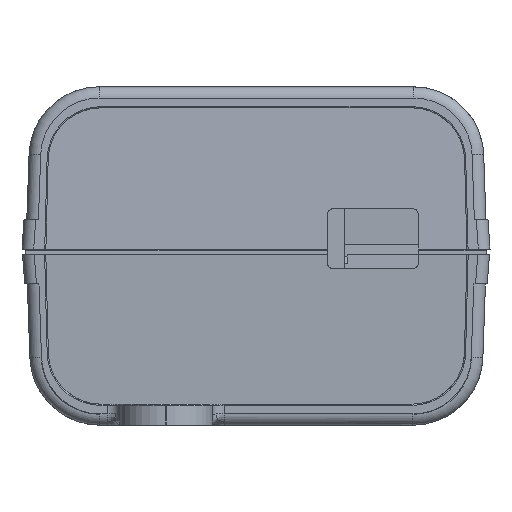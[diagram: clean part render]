
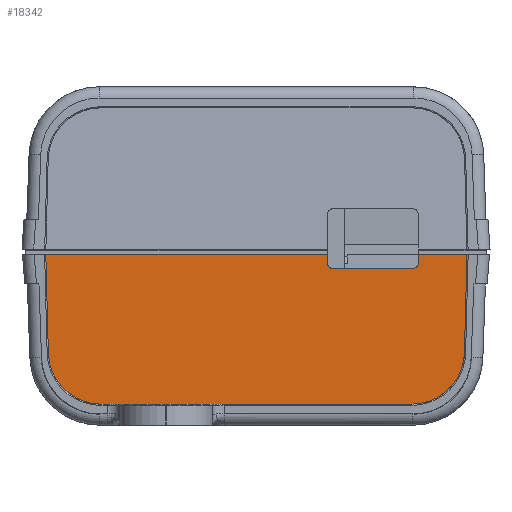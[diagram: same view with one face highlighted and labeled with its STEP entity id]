
A CAD part, left-side view. The second image highlights one B-rep face of the part: STEP entity #18342.
In plain terms, the highlighted planar face has unit normal (-0.999, 0, -0.035).
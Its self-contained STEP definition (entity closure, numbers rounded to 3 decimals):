
#9746=DIRECTION('',(0.,1.,0.));
#9747=VECTOR('',#9746,26.67);
#9748=CARTESIAN_POINT('',(45.225,56.585,0.8));
#9749=LINE('',#9748,#9747);
#10022=CARTESIAN_POINT('',(45.072,52.087,5.182));
#10023=CARTESIAN_POINT('',(45.083,52.095,4.846));
#10024=CARTESIAN_POINT('',(45.106,52.187,4.194));
#10025=CARTESIAN_POINT('',(45.139,52.536,3.254));
#10026=CARTESIAN_POINT('',(45.168,53.082,2.418));
#10027=CARTESIAN_POINT('',(45.193,53.798,1.721));
#10028=CARTESIAN_POINT('',(45.211,54.648,1.198));
#10029=CARTESIAN_POINT('',(45.222,55.595,
0.873));
#10030=CARTESIAN_POINT('',(45.225,56.249,0.8));
#10031=CARTESIAN_POINT('',(45.225,56.585,0.8));
#10043=CARTESIAN_POINT('',(44.82,63.334,12.401));
#10044=CARTESIAN_POINT('',(44.82,63.404,12.401));
#10045=CARTESIAN_POINT('',(44.819,63.531,12.428));
#10046=CARTESIAN_POINT('',(44.815,63.697,12.538));
#10047=CARTESIAN_POINT('',(44.809,63.808,12.704));
#10048=CARTESIAN_POINT('',(44.805,63.834,12.831));
#10049=CARTESIAN_POINT('',(44.802,63.834,12.9));
#10054=CARTESIAN_POINT('',(44.802,56.034,12.9));
#10055=CARTESIAN_POINT('',(44.805,56.034,12.831));
#10056=CARTESIAN_POINT('',(44.809,56.061,12.704));
#10057=CARTESIAN_POINT('',(44.815,56.171,12.538));
#10058=CARTESIAN_POINT('',(44.819,56.337,12.428));
#10059=CARTESIAN_POINT('',(44.82,56.465,12.401));
#10060=CARTESIAN_POINT('',(44.82,56.534,12.401));
#10093=CARTESIAN_POINT('',(45.225,83.255,0.8));
#10094=CARTESIAN_POINT('',(45.225,83.591,0.8));
#10095=CARTESIAN_POINT('',(45.222,84.245,
0.873));
#10096=CARTESIAN_POINT('',(45.211,85.193,1.198));
#10097=CARTESIAN_POINT('',(45.193,86.043,1.721));
#10098=CARTESIAN_POINT('',(45.168,86.759,2.418));
#10099=CARTESIAN_POINT('',(45.139,87.305,3.254));
#10100=CARTESIAN_POINT('',(45.106,87.654,4.194));
#10101=CARTESIAN_POINT('',(45.083,87.745,4.846));
#10102=CARTESIAN_POINT('',(45.072,87.754,5.182));
#10215=DIRECTION('',(0.,-1.,0.));
#10216=VECTOR('',#10215,24.14);
#10217=CARTESIAN_POINT('',(44.778,87.974,13.601));
#10218=LINE('',#10217,#10216);
#10280=DIRECTION('',(-0.035,0.026,0.999));
#10281=VECTOR('',#10280,8.427);
#10282=CARTESIAN_POINT('',(45.072,87.754,5.182));
#10283=LINE('',#10282,#10281);
#11042=DIRECTION('',(0.,-1.,0.));
#11043=VECTOR('',#11042,4.168);
#11044=CARTESIAN_POINT('',(44.778,56.034,13.601));
#11045=LINE('',#11044,#11043);
#12270=DIRECTION('',(-0.035,0.,0.999));
#12271=VECTOR('',#12270,0.701);
#12272=CARTESIAN_POINT('',(44.802,56.034,12.9));
#12273=LINE('',#12272,#12271);
#12298=DIRECTION('',(0.,-1.,0.));
#12299=VECTOR('',#12298,6.8);
#12300=CARTESIAN_POINT('',(44.82,63.334,12.401));
#12301=LINE('',#12300,#12299);
#12340=DIRECTION('',(0.035,0.,-0.999));
#12341=VECTOR('',#12340,0.701);
#12342=CARTESIAN_POINT('',(44.778,63.834,13.601));
#12343=LINE('',#12342,#12341);
#16799=DIRECTION('',(0.035,0.026,-0.999));
#16800=VECTOR('',#16799,8.427);
#16801=CARTESIAN_POINT('',(44.778,51.867,13.601));
#16802=LINE('',#16801,#16800);
#16835=CARTESIAN_POINT('',(45.225,83.255,0.8));
#16836=VERTEX_POINT('',#16835);
#16837=CARTESIAN_POINT('',(45.225,56.585,0.8));
#16838=VERTEX_POINT('',#16837);
#16860=VERTEX_POINT('',#10043);
#16861=VERTEX_POINT('',#10049);
#16925=VERTEX_POINT('',#10102);
#16926=CARTESIAN_POINT('',(44.778,87.974,13.601));
#16927=VERTEX_POINT('',#16926);
#16928=CARTESIAN_POINT('',(44.778,63.834,13.601));
#16929=VERTEX_POINT('',#16928);
#16930=CARTESIAN_POINT('',(44.82,56.534,12.401));
#16931=VERTEX_POINT('',#16930);
#16932=VERTEX_POINT('',#10054);
#16933=CARTESIAN_POINT('',(44.778,56.034,13.601));
#16934=VERTEX_POINT('',#16933);
#16935=CARTESIAN_POINT('',(44.778,51.867,13.601));
#16936=VERTEX_POINT('',#16935);
#16937=CARTESIAN_POINT('',(45.072,52.087,5.182));
#16938=VERTEX_POINT('',#16937);
#18313=CARTESIAN_POINT('',(44.434,80.383,23.442));
#18314=DIRECTION('',(-0.999,0.,-0.035));
#18315=DIRECTION('',(0.,-1.,0.));
#18316=AXIS2_PLACEMENT_3D('',#18313,#18314,#18315);
#18317=PLANE('',#18316);
#18318=ORIENTED_EDGE('',*,*,#17938,.T.);
#18320=ORIENTED_EDGE('',*,*,#18319,.T.);
#18322=ORIENTED_EDGE('',*,*,#18321,.T.);
#18324=ORIENTED_EDGE('',*,*,#18323,.T.);
#18326=ORIENTED_EDGE('',*,*,#18325,.T.);
#18328=ORIENTED_EDGE('',*,*,#18327,.F.);
#18330=ORIENTED_EDGE('',*,*,#18329,.T.);
#18332=ORIENTED_EDGE('',*,*,#18331,.F.);
#18334=ORIENTED_EDGE('',*,*,#18333,.T.);
#18336=ORIENTED_EDGE('',*,*,#18335,.T.);
#18338=ORIENTED_EDGE('',*,*,#18337,.T.);
#18339=ORIENTED_EDGE('',*,*,#18294,.T.);
#18340=EDGE_LOOP('',(#18318,#18320,#18322,#18324,#18326,#18328,#18330,#18332,
#18334,#18336,#18338,#18339));
#18341=FACE_OUTER_BOUND('',#18340,.F.);
#10032=B_SPLINE_CURVE_WITH_KNOTS('',3,(#10022,#10023,#10024,#10025,#10026,
#10027,#10028,#10029,#10030,#10031),.UNSPECIFIED.,.F.,.F.,(4,1,1,1,1,1,1,4),(
0.,0.143,0.286,0.429,0.571,
0.714,0.857,1.),.UNSPECIFIED.);
#10050=B_SPLINE_CURVE_WITH_KNOTS('',3,(#10043,#10044,#10045,#10046,#10047,
#10048,#10049),.UNSPECIFIED.,.F.,.F.,(4,1,1,1,4),(0.,0.25,0.5,0.75,
1.),.UNSPECIFIED.);
#10061=B_SPLINE_CURVE_WITH_KNOTS('',3,(#10054,#10055,#10056,#10057,#10058,
#10059,#10060),.UNSPECIFIED.,.F.,.F.,(4,1,1,1,4),(0.,0.25,0.5,0.75,
1.),.UNSPECIFIED.);
#10103=B_SPLINE_CURVE_WITH_KNOTS('',3,(#10093,#10094,#10095,#10096,#10097,
#10098,#10099,#10100,#10101,#10102),.UNSPECIFIED.,.F.,.F.,(4,1,1,1,1,1,1,4),(
0.,0.143,0.286,0.429,0.571,
0.714,0.857,1.),.UNSPECIFIED.);
#17938=EDGE_CURVE('',#16838,#16836,#9749,.T.);
#18294=EDGE_CURVE('',#16938,#16838,#10032,.T.);
#18319=EDGE_CURVE('',#16836,#16925,#10103,.T.);
#18321=EDGE_CURVE('',#16925,#16927,#10283,.T.);
#18323=EDGE_CURVE('',#16927,#16929,#10218,.T.);
#18325=EDGE_CURVE('',#16929,#16861,#12343,.T.);
#18327=EDGE_CURVE('',#16860,#16861,#10050,.T.);
#18329=EDGE_CURVE('',#16860,#16931,#12301,.T.);
#18331=EDGE_CURVE('',#16932,#16931,#10061,.T.);
#18333=EDGE_CURVE('',#16932,#16934,#12273,.T.);
#18335=EDGE_CURVE('',#16934,#16936,#11045,.T.);
#18337=EDGE_CURVE('',#16936,#16938,#16802,.T.);
#18342=ADVANCED_FACE('',(#18341),#18317,.T.);
